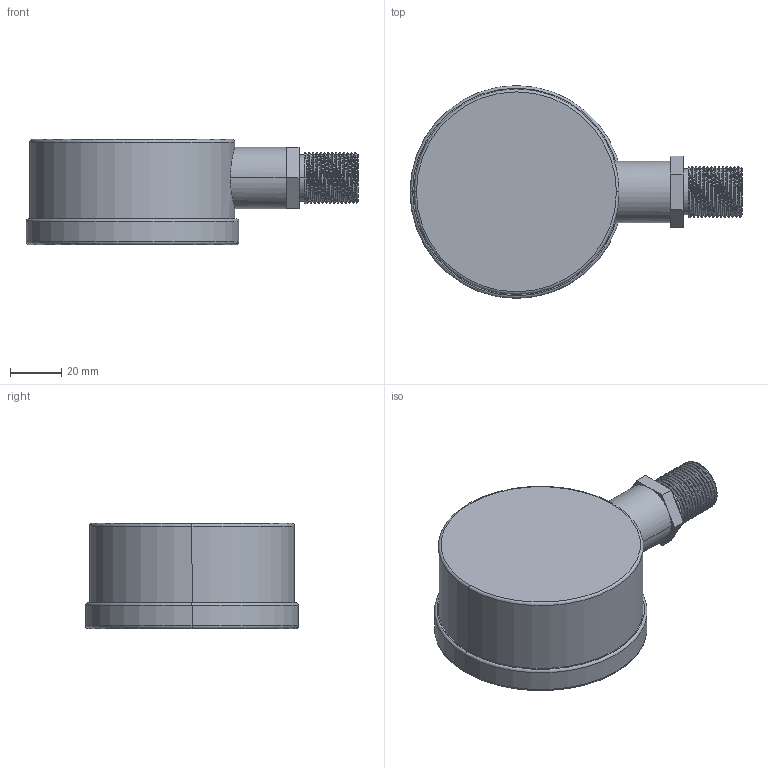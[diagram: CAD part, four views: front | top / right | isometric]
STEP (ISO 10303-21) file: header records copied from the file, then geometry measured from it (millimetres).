
FILE_DESCRIPTION((''),'2;1');
FILE_NAME('PRT0077','2025-12-30T13:46:12',('28740194'),(''),'CREO PARAMETRIC BY PTC INC, 2024063','CREO PARAMETRIC BY PTC INC, 2024063','');
FILE_SCHEMA(('CONFIG_CONTROL_DESIGN'));
Length unit declared in the file: millimetre
Products named in the file (1): PRT0077
Bounding box: 129.5 x 83 x 41 mm (x, y, z)
Volume: 226229 mm3; surface area: 25548.9 mm2
Topology: 1 solids, 1 shells, 381 faces, 1059 edges, 700 vertices
Faces by surface type: plane 317, cylinder 36, bspline 20, torus 8
Entity records: 16822 total; most frequent: CARTESIAN_POINT 7208, ORIENTED_EDGE 2118, DIRECTION 1733, EDGE_CURVE 1059, VECTOR 937, LINE 937, VERTEX_POINT 700, EDGE_LOOP 401
